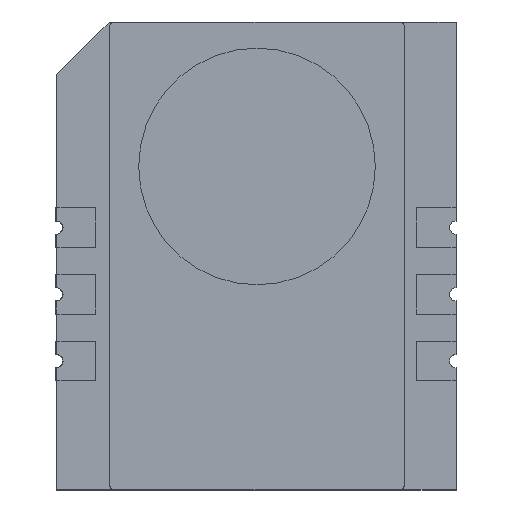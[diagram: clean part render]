
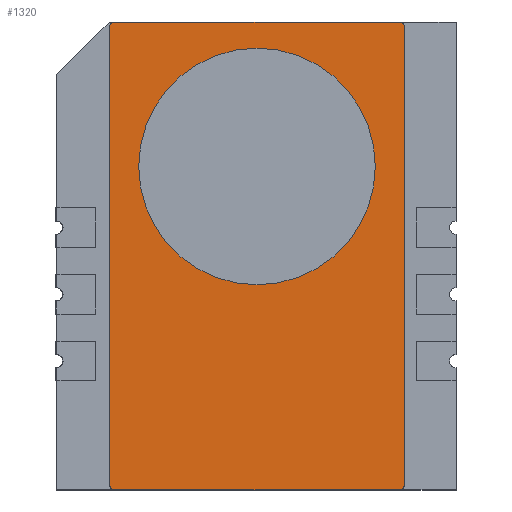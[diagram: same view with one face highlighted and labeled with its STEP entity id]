
A CAD part, top view. The second image highlights one B-rep face of the part: STEP entity #1320.
In plain terms, the highlighted planar face has unit normal (0, 0, 1).
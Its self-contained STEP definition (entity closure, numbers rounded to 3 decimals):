
#50=PLANE('',#1442);
#123=FACE_OUTER_BOUND('',#203,.T.);
#203=EDGE_LOOP('',(#1038,#1039,#1040,#1041,#1042,#1043,#1044,#1045));
#297=LINE('',#2003,#449);
#301=LINE('',#2015,#453);
#305=LINE('',#2027,#457);
#309=LINE('',#2039,#461);
#449=VECTOR('',#1616,10.);
#453=VECTOR('',#1628,10.);
#457=VECTOR('',#1640,10.);
#461=VECTOR('',#1652,10.);
#573=CIRCLE('',#1429,0.15);
#575=CIRCLE('',#1433,0.15);
#577=CIRCLE('',#1437,0.15);
#579=CIRCLE('',#1441,0.15);
#630=VERTEX_POINT('',#2000);
#631=VERTEX_POINT('',#2002);
#633=VERTEX_POINT('',#2008);
#635=VERTEX_POINT('',#2014);
#637=VERTEX_POINT('',#2020);
#639=VERTEX_POINT('',#2026);
#641=VERTEX_POINT('',#2032);
#643=VERTEX_POINT('',#2038);
#771=EDGE_CURVE('',#631,#630,#297,.T.);
#774=EDGE_CURVE('',#633,#631,#573,.T.);
#777=EDGE_CURVE('',#635,#633,#301,.T.);
#780=EDGE_CURVE('',#637,#635,#575,.T.);
#783=EDGE_CURVE('',#639,#637,#305,.T.);
#786=EDGE_CURVE('',#641,#639,#577,.T.);
#789=EDGE_CURVE('',#643,#641,#309,.T.);
#792=EDGE_CURVE('',#630,#643,#579,.T.);
#1038=ORIENTED_EDGE('',*,*,#792,.T.);
#1039=ORIENTED_EDGE('',*,*,#789,.T.);
#1040=ORIENTED_EDGE('',*,*,#786,.T.);
#1041=ORIENTED_EDGE('',*,*,#783,.T.);
#1042=ORIENTED_EDGE('',*,*,#780,.T.);
#1043=ORIENTED_EDGE('',*,*,#777,.T.);
#1044=ORIENTED_EDGE('',*,*,#774,.T.);
#1045=ORIENTED_EDGE('',*,*,#771,.T.);
#1320=ADVANCED_FACE('',(#123),#50,.T.);
#1429=AXIS2_PLACEMENT_3D('',#2009,#1622,#1623);
#1433=AXIS2_PLACEMENT_3D('',#2021,#1634,#1635);
#1437=AXIS2_PLACEMENT_3D('',#2033,#1646,#1647);
#1441=AXIS2_PLACEMENT_3D('',#2043,#1658,#1659);
#1442=AXIS2_PLACEMENT_3D('',#2044,#1660,#1661);
#1616=DIRECTION('',(0.,-1.,0.));
#1622=DIRECTION('center_axis',(0.,0.,1.));
#1623=DIRECTION('ref_axis',(0.,1.,0.));
#1628=DIRECTION('',(-1.,0.,0.));
#1634=DIRECTION('center_axis',(0.,0.,1.));
#1635=DIRECTION('ref_axis',(1.,0.,0.));
#1640=DIRECTION('',(0.,1.,0.));
#1646=DIRECTION('center_axis',(0.,0.,1.));
#1647=DIRECTION('ref_axis',(0.,-1.,0.));
#1652=DIRECTION('',(1.,0.,0.));
#1658=DIRECTION('center_axis',(0.,0.,1.));
#1659=DIRECTION('ref_axis',(-1.,0.,0.));
#1660=DIRECTION('center_axis',(0.,0.,1.));
#1661=DIRECTION('ref_axis',(-1.,0.,0.));
#2000=CARTESIAN_POINT('',(-4.,-12.64,4.3));
#2002=CARTESIAN_POINT('',(-4.,4.84,4.3));
#2003=CARTESIAN_POINT('',(-4.,-12.64,4.3));
#2008=CARTESIAN_POINT('',(-3.85,4.99,4.3));
#2009=CARTESIAN_POINT('Origin',(-3.85,4.84,4.3));
#2014=CARTESIAN_POINT('',(7.05,4.99,4.3));
#2015=CARTESIAN_POINT('',(-3.85,4.99,4.3));
#2020=CARTESIAN_POINT('',(7.2,4.84,4.3));
#2021=CARTESIAN_POINT('Origin',(7.05,4.84,4.3));
#2026=CARTESIAN_POINT('',(7.2,-12.64,4.3));
#2027=CARTESIAN_POINT('',(7.2,4.84,4.3));
#2032=CARTESIAN_POINT('',(7.05,-12.79,4.3));
#2033=CARTESIAN_POINT('Origin',(7.05,-12.64,4.3));
#2038=CARTESIAN_POINT('',(-3.85,-12.79,4.3));
#2039=CARTESIAN_POINT('',(7.05,-12.79,4.3));
#2043=CARTESIAN_POINT('Origin',(-3.85,-12.64,4.3));
#2044=CARTESIAN_POINT('Origin',(1.6,-3.9,4.3));
